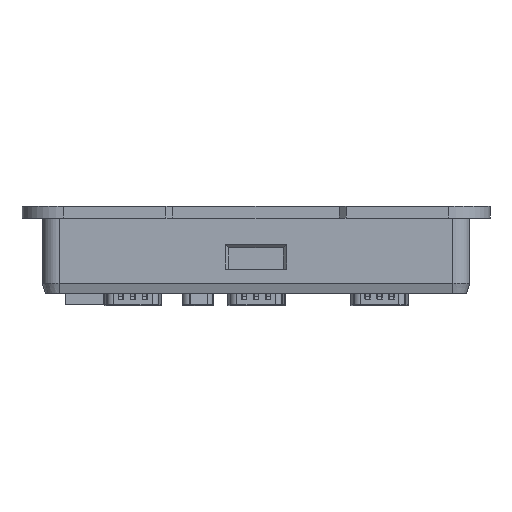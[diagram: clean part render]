
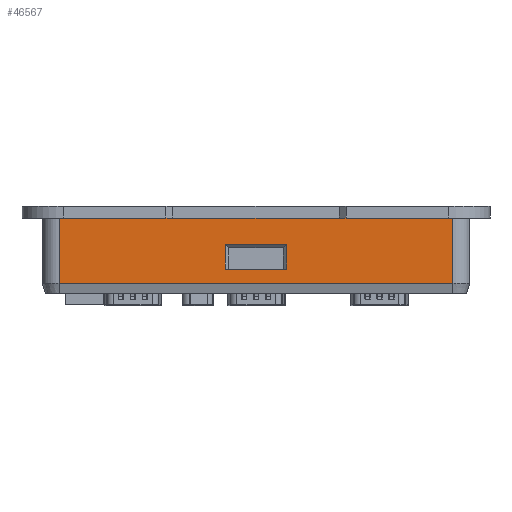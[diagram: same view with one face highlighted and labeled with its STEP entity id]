
A CAD part, left-side view. The second image highlights one B-rep face of the part: STEP entity #46567.
In plain terms, the highlighted planar face has unit normal (-1, 0, 0).
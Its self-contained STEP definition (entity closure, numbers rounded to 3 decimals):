
#2929=FACE_BOUND('',#11308,.T.);
#8324=FACE_OUTER_BOUND('',#11307,.T.);
#11307=EDGE_LOOP('',(#42040,#42041,#42042,#42043));
#11308=EDGE_LOOP('',(#42044,#42045,#42046,#42047));
#14325=LINE('',#120237,#17540);
#14352=LINE('',#120294,#17567);
#14358=LINE('',#120311,#17573);
#14407=LINE('',#120419,#17622);
#14453=LINE('',#120523,#17668);
#14458=LINE('',#120532,#17673);
#14459=LINE('',#120534,#17674);
#14460=LINE('',#120535,#17675);
#17540=VECTOR('',#61672,10.);
#17567=VECTOR('',#61735,10.);
#17573=VECTOR('',#61753,10.);
#17622=VECTOR('',#61870,10.);
#17668=VECTOR('',#62006,10.);
#17673=VECTOR('',#62015,10.);
#17674=VECTOR('',#62016,10.);
#17675=VECTOR('',#62017,10.);
#21994=VERTEX_POINT('',#120223);
#22000=VERTEX_POINT('',#120235);
#22012=VERTEX_POINT('',#120292);
#22017=VERTEX_POINT('',#120310);
#22054=VERTEX_POINT('',#120521);
#22055=VERTEX_POINT('',#120522);
#22057=VERTEX_POINT('',#120531);
#22058=VERTEX_POINT('',#120533);
#28636=EDGE_CURVE('',#21994,#22000,#14325,.T.);
#28665=EDGE_CURVE('',#22012,#22000,#14352,.T.);
#28673=EDGE_CURVE('',#22017,#22012,#14358,.T.);
#28728=EDGE_CURVE('',#21994,#22017,#14407,.T.);
#28777=EDGE_CURVE('',#22054,#22055,#14453,.T.);
#28782=EDGE_CURVE('',#22057,#22055,#14458,.T.);
#28783=EDGE_CURVE('',#22058,#22057,#14459,.T.);
#28784=EDGE_CURVE('',#22054,#22058,#14460,.T.);
#42040=ORIENTED_EDGE('',*,*,#28636,.T.);
#42041=ORIENTED_EDGE('',*,*,#28665,.F.);
#42042=ORIENTED_EDGE('',*,*,#28673,.F.);
#42043=ORIENTED_EDGE('',*,*,#28728,.F.);
#42044=ORIENTED_EDGE('',*,*,#28777,.T.);
#42045=ORIENTED_EDGE('',*,*,#28782,.F.);
#42046=ORIENTED_EDGE('',*,*,#28783,.F.);
#42047=ORIENTED_EDGE('',*,*,#28784,.F.);
#43933=PLANE('',#50799);
#46567=ADVANCED_FACE('',(#8324,#2929),#43933,.T.);
#50799=AXIS2_PLACEMENT_3D('',#120530,#62013,#62014);
#61672=DIRECTION('',(0.,1.,0.));
#61735=DIRECTION('',(0.,0.,1.));
#61753=DIRECTION('',(0.,1.,0.));
#61870=DIRECTION('',(0.,0.,-1.));
#62006=DIRECTION('',(0.,1.,0.));
#62013=DIRECTION('center_axis',(-1.,0.,0.));
#62014=DIRECTION('ref_axis',(0.,1.,0.));
#62015=DIRECTION('',(0.,0.,-1.));
#62016=DIRECTION('',(0.,1.,0.));
#62017=DIRECTION('',(0.,0.,1.));
#120223=CARTESIAN_POINT('',(-4.025,-41.069,26.491));
#120235=CARTESIAN_POINT('',(-4.025,73.731,26.491));
#120237=CARTESIAN_POINT('',(-4.025,78.731,26.491));
#120292=CARTESIAN_POINT('',(-4.025,73.731,5.941));
#120294=CARTESIAN_POINT('',(-4.025,73.731,28.491));
#120310=CARTESIAN_POINT('',(-4.025,-41.069,5.941));
#120311=CARTESIAN_POINT('',(-4.025,3.231,5.941));
#120419=CARTESIAN_POINT('',(-4.025,-41.069,28.491));
#120521=CARTESIAN_POINT('',(-4.025,7.331,10.091));
#120522=CARTESIAN_POINT('',(-4.025,25.331,10.091));
#120523=CARTESIAN_POINT('',(-4.025,-0.769,10.091));
#120530=CARTESIAN_POINT('Origin',(-4.025,-9.869,28.491));
#120531=CARTESIAN_POINT('',(-4.025,25.331,17.291));
#120532=CARTESIAN_POINT('',(-4.025,25.331,19.291));
#120533=CARTESIAN_POINT('',(-4.025,7.331,17.291));
#120534=CARTESIAN_POINT('',(-4.025,7.231,17.291));
#120535=CARTESIAN_POINT('',(-4.025,7.331,22.391));
